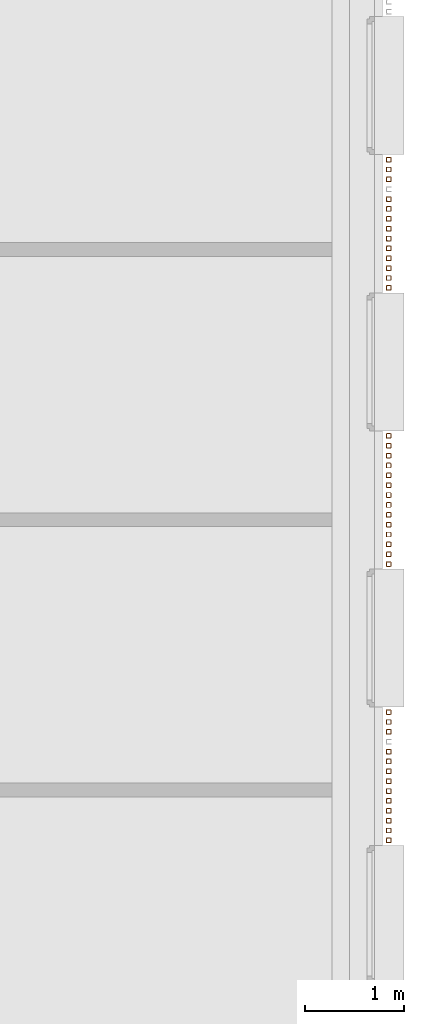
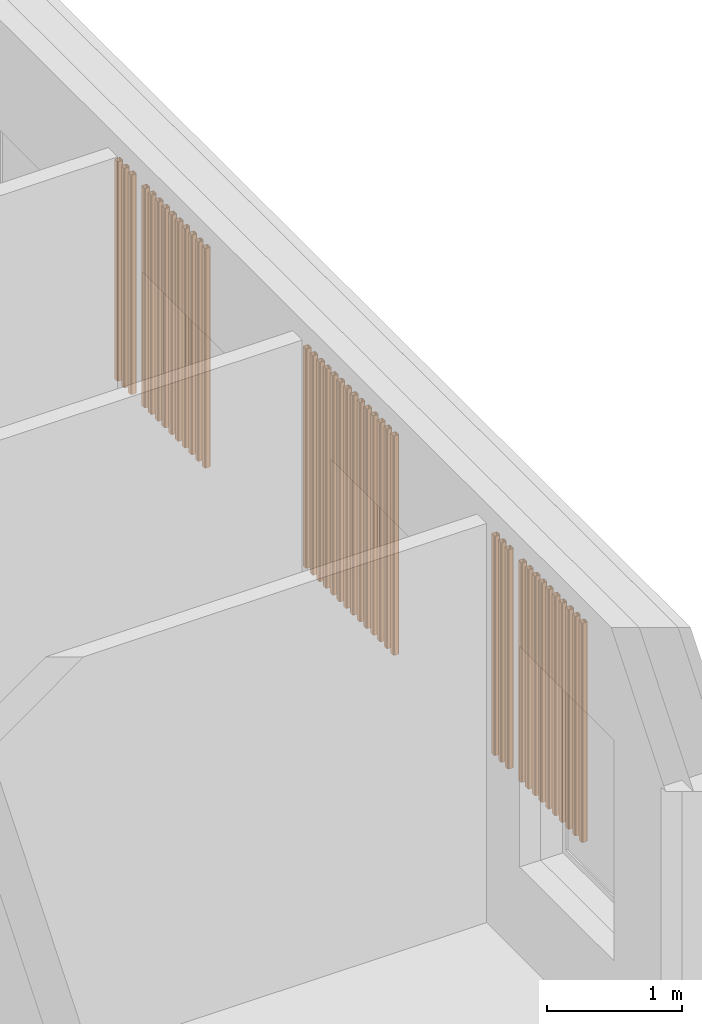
# One storey, part 77 of 100: 40 proxies.
"""IFC2X3 building model written with IfcOpenShell, lengths in millimetres."""

from ifc_helpers import new_model, entity, si_unit, converted_unit, derived_unit, money_unit, direction, frame, origin_with_axes, place, context, subcontext, project, spatial, faceted_brep, source, transform, mapped, material, type_object, element, save


model = new_model("IFC2X3")

# Units and contexts
model_context = context("Model", 3, precision=0.01, world=origin_with_axes(), true_north=direction((0.0, 1.0)))
body_context = subcontext(model_context, "Body", "Model", "MODEL_VIEW")
ifc_project = project(units=[si_unit("LENGTHUNIT", "METRE", prefix="MILLI"), si_unit("AREAUNIT", "SQUARE_METRE"), si_unit("VOLUMEUNIT", "CUBIC_METRE"), converted_unit("PLANEANGLEUNIT", "DEGREE", entity("IfcPlaneAngleMeasure", 0.0174532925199), si_unit("PLANEANGLEUNIT", "RADIAN"), dimensions=[0, 0, 0, 0, 0, 0, 0]), si_unit("SOLIDANGLEUNIT", "STERADIAN"), money_unit("EUR"), converted_unit("TIMEUNIT", "Year", entity("IfcTimeMeasure", 31556926.0), si_unit("TIMEUNIT", "SECOND"), dimensions=[0, 0, 1, 0, 0, 0, 0]), si_unit("MASSUNIT", "GRAM", prefix="KILO"), si_unit("THERMODYNAMICTEMPERATUREUNIT", "DEGREE_CELSIUS"), si_unit("LUMINOUSINTENSITYUNIT", "LUMEN"), si_unit("ENERGYUNIT", "JOULE", prefix="MEGA"), derived_unit("THERMALCONDUCTANCEUNIT", [(si_unit("POWERUNIT", "WATT"), 1), (si_unit("LENGTHUNIT", "METRE"), -1), (si_unit("THERMODYNAMICTEMPERATUREUNIT", "KELVIN"), -1)]), derived_unit("SPECIFICHEATCAPACITYUNIT", [(si_unit("ENERGYUNIT", "JOULE"), 1), (si_unit("MASSUNIT", "GRAM", prefix="KILO"), -1), (si_unit("THERMODYNAMICTEMPERATUREUNIT", "KELVIN"), -1)]), derived_unit("MASSDENSITYUNIT", [(si_unit("MASSUNIT", "GRAM", prefix="KILO"), 1), (si_unit("VOLUMEUNIT", "CUBIC_METRE"), -1)])], contexts=[model_context])

# Site, building, storey
site_placement = place(None, origin_with_axes())
site = spatial("IfcSite", under=ifc_project, at=site_placement, Name="Politse- ja Piirivalveameti ning Päästeameti ühishoone", CompositionType="ELEMENT")
building_placement = place(site_placement, origin_with_axes())
building = spatial("IfcBuilding", under=site, at=building_placement, Name="Politse- ja Piirivalveameti ning Päästeameti ühishoone", CompositionType="ELEMENT")
storey_placement = place(building_placement, frame((0.0, 0.0, 3800.0), z_axis=(0.0, 0.0, 1.0), x_axis=(1.0, 0.0, 0.0)))
storey = spatial("IfcBuildingStorey", under=building, at=storey_placement, Name="Teine korrus", CompositionType="ELEMENT", Elevation=3800.0)

# Proxies
ifc_material = material(Name="ET-05_Teras")
building_element_proxy_type = type_object("IfcBuildingElementProxyType", Name="SHS Cold-Formed Column 23", PredefinedType="NOTDEFINED")
shared_shape = source(origin_with_axes(), body_context, "Body", "Brep", [
    faceted_brep([(-17.0, -25.0, 0.0), (17.0, -25.0, 0.0), (17.0, -25.0, 1990.0), (-17.0, -25.0, 1990.0), (-22.6568542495, -22.6568542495, 0.0), (-25.0, -17.0, 0.0), (-25.0, 17.0, 0.0), (-22.6568542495, 22.6568542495, 0.0), (-17.0, 25.0, 0.0), (17.0, 25.0, 0.0), (22.6568542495, 22.6568542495, 0.0), (25.0, 17.0, 0.0), (25.0, -17.0, 0.0), (22.6568542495, -22.6568542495, 0.0), (-17.0, -21.0, 0.0), (17.0, -21.0, 0.0), (19.8284271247, -19.8284271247, 0.0), (21.0, -17.0, 0.0), (21.0, 17.0, 0.0), (19.8284271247, 19.8284271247, 0.0), (17.0, 21.0, 0.0), (-17.0, 21.0, 0.0), (-19.8284271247, 19.8284271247, 0.0), (-21.0, 17.0, 0.0), (-21.0, -17.0, 0.0), (-19.8284271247, -19.8284271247, 0.0), (22.6568542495, -22.6568542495, 1990.0), (25.0, -17.0, 1990.0), (25.0, 17.0, 1990.0), (22.6568542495, 22.6568542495, 1990.0), (17.0, 25.0, 1990.0), (-17.0, 25.0, 1990.0), (-22.6568542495, 22.6568542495, 1990.0), (-25.0, 17.0, 1990.0), (-25.0, -17.0, 1990.0), (-22.6568542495, -22.6568542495, 1990.0), (-17.0, -21.0, 1990.0), (-19.8284271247, -19.8284271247, 1990.0), (-21.0, -17.0, 1990.0), (-21.0, 17.0, 1990.0), (-19.8284271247, 19.8284271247, 1990.0), (-17.0, 21.0, 1990.0), (17.0, 21.0, 1990.0), (19.8284271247, 19.8284271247, 1990.0), (21.0, 17.0, 1990.0), (21.0, -17.0, 1990.0), (19.8284271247, -19.8284271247, 1990.0), (17.0, -21.0, 1990.0)], [[[0, 1, 2, 3]], [[0, 4, 5, 6, 7, 8, 9, 10, 11, 12, 13, 1], [14, 15, 16, 17, 18, 19, 20, 21, 22, 23, 24, 25]], [[1, 13, 26, 2]], [[3, 2, 26, 27, 28, 29, 30, 31, 32, 33, 34, 35], [36, 37, 38, 39, 40, 41, 42, 43, 44, 45, 46, 47]], [[4, 0, 3, 35]], [[5, 4, 35, 34]], [[6, 5, 34, 33]], [[7, 6, 33, 32]], [[8, 7, 32, 31]], [[9, 8, 31, 30]], [[10, 9, 30, 29]], [[11, 10, 29, 28]], [[12, 11, 28, 27]], [[13, 12, 27, 26]], [[15, 14, 36, 47]], [[16, 15, 47, 46]], [[17, 16, 46, 45]], [[18, 17, 45, 44]], [[19, 18, 44, 43]], [[20, 19, 43, 42]], [[21, 20, 42, 41]], [[22, 21, 41, 40]], [[23, 22, 40, 39]], [[24, 23, 39, 38]], [[25, 24, 38, 37]], [[14, 25, 37, 36]]]),
])
for number, where, z_axis, x_axis in (
    (1, (70235.2095212, 21350.0702441, 810.000049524), (0.0, 0.0, 1.0), (1.0, 0.0, 0.0)),
    (2, (70235.2095212, 21450.0702441, 810.000049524), (0.0, 0.0, 1.0), (1.0, 0.0, 0.0)),
    (3, (70235.2095212, 21550.0702441, 810.000049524), (0.0, 0.0, 1.0), (1.0, 0.0, 0.0)),
    (4, (70235.2095212, 21650.0702441, 810.000049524), (0.0, 0.0, 1.0), (1.0, 0.0, 0.0)),
    (5, (70235.2095212, 21750.0702441, 810.000049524), (0.0, 0.0, 1.0), (1.0, 0.0, 0.0)),
    (6, (70235.2095212, 21850.0702441, 810.000049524), (0.0, 0.0, 1.0), (1.0, 0.0, 0.0)),
    (7, (70235.2095212, 21950.0702441, 810.000049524), (0.0, 0.0, 1.0), (1.0, 0.0, 0.0)),
    (8, (70235.2095212, 22050.0702441, 810.000049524), (0.0, 0.0, 1.0), (1.0, 0.0, 0.0)),
    (9, (70235.2095212, 22150.0702441, 810.000049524), (0.0, 0.0, 1.0), (1.0, 0.0, 0.0)),
    (10, (70235.2095212, 22250.0702441, 810.000049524), (0.0, 0.0, 1.0), (1.0, 0.0, 0.0)),
    (11, (70235.2095212, 22450.0702441, 810.000049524), (0.0, 0.0, 1.0), (1.0, 0.0, 0.0)),
    (12, (70235.2095212, 22550.0702441, 810.000049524), (0.0, 0.0, 1.0), (1.0, 0.0, 0.0)),
    (13, (70235.2095212, 22650.0702441, 810.000049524), (0.0, 0.0, 1.0), (1.0, 0.0, 0.0)),
    (14, (70235.2095212, 24150.0702441, 810.000049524), (0.0, 0.0, 1.0), (1.0, 0.0, 0.0)),
    (15, (70235.2095212, 24250.0702441, 810.000049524), (0.0, 0.0, 1.0), (1.0, 0.0, 0.0)),
    (16, (70235.2095212, 24350.0702441, 810.000049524), (0.0, 0.0, 1.0), (1.0, 0.0, 0.0)),
    (17, (70235.2095212, 24450.0702441, 810.000049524), (0.0, 0.0, 1.0), (1.0, 0.0, 0.0)),
    (18, (70235.2095212, 24550.0702441, 810.000049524), (0.0, 0.0, 1.0), (1.0, 0.0, 0.0)),
    (19, (70235.2095212, 24650.0702441, 810.000049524), (0.0, 0.0, 1.0), (1.0, 0.0, 0.0)),
    (20, (70235.2095212, 24750.0702441, 810.000049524), (0.0, 0.0, 1.0), (1.0, 0.0, 0.0)),
    (21, (70235.2095212, 24850.0702441, 810.000049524), (0.0, 0.0, 1.0), (1.0, 0.0, 0.0)),
    (22, (70235.2095212, 24950.0702441, 810.000049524), (0.0, 0.0, 1.0), (1.0, 0.0, 0.0)),
    (23, (70235.2095212, 25050.0702441, 810.000049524), (0.0, 0.0, 1.0), (1.0, 0.0, 0.0)),
    (24, (70235.2095212, 25250.0702441, 810.000049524), (0.0, 0.0, 1.0), (1.0, 0.0, 0.0)),
    (25, (70235.2095212, 25350.0702441, 810.000049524), (0.0, 0.0, 1.0), (1.0, 0.0, 0.0)),
    (26, (70235.2095212, 25450.0702441, 810.000049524), (0.0, 0.0, 1.0), (1.0, 0.0, 0.0)),
    (27, (70235.2095212, 26950.0702441, 810.000049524), (0.0, 0.0, 1.0), (1.0, 0.0, 0.0)),
    (28, (70235.2095212, 27050.0702441, 810.000049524), (0.0, 0.0, 1.0), (1.0, 0.0, 0.0)),
    (29, (70235.2095212, 27150.0702441, 810.000049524), (0.0, 0.0, 1.0), (1.0, 0.0, 0.0)),
    (30, (70235.2095212, 27250.0702441, 810.000049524), (0.0, 0.0, 1.0), (1.0, 0.0, 0.0)),
    (31, (70235.2095212, 27350.0702441, 810.000049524), (0.0, 0.0, 1.0), (1.0, 0.0, 0.0)),
    (32, (70235.2095212, 27450.0702441, 810.000049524), (0.0, 0.0, 1.0), (1.0, 0.0, 0.0)),
    (33, (70235.2095212, 27550.0702441, 810.000049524), (0.0, 0.0, 1.0), (1.0, 0.0, 0.0)),
    (34, (70235.2095212, 27650.0702441, 810.000049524), (0.0, 0.0, 1.0), (1.0, 0.0, 0.0)),
    (35, (70235.2095212, 27750.0702441, 810.000049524), (0.0, 0.0, 1.0), (1.0, 0.0, 0.0)),
    (36, (70235.2095212, 27850.0702441, 810.000049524), (0.0, 0.0, 1.0), (1.0, 0.0, 0.0)),
    (37, (70235.2095212, 28050.0702441, 810.000049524), (0.0, 0.0, 1.0), (1.0, 0.0, 0.0)),
    (38, (70235.2095212, 28150.0702441, 810.000049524), (0.0, 0.0, 1.0), (1.0, 0.0, 0.0)),
    (39, (70235.2095212, 28250.0702441, 810.000049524), (0.0, 0.0, 1.0), (1.0, 0.0, 0.0)),
    (40, (70235.2095212, 25150.1404677, 810.000049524), (0.0, 0.0, 1.0), (1.0, 0.0, 0.0)),
):
    element("IfcBuildingElementProxy", number, at=place(storey_placement, frame(where, z_axis=z_axis, x_axis=x_axis)), inside=storey, type_object=building_element_proxy_type, material=ifc_material, Name="Fassaadiribid", context=body_context, shape_type="MappedRepresentation", body=[
        mapped(shared_shape, transform((0.0, 0.0, 0.0))),
    ])

save(model, "model.ifc")
